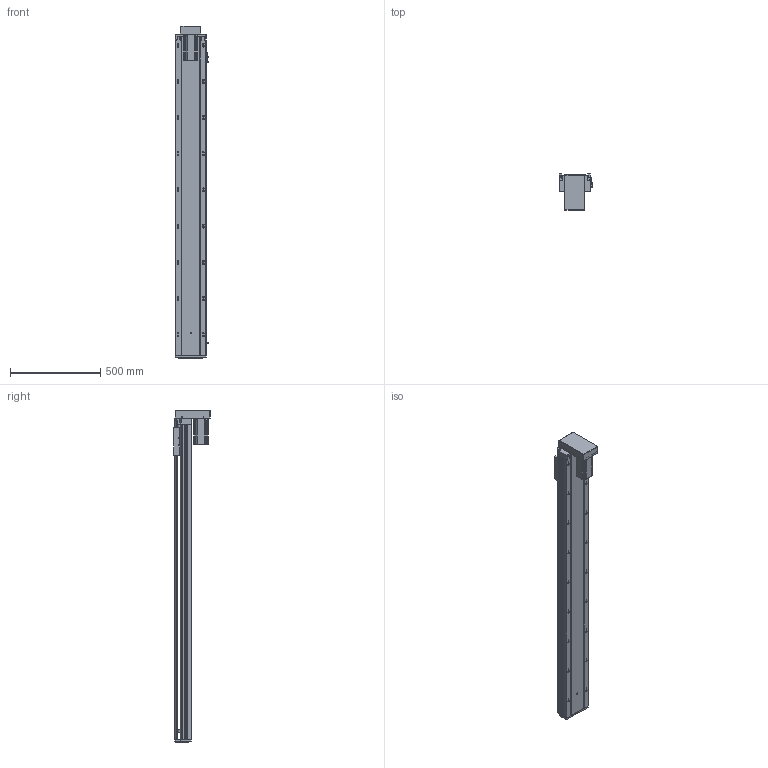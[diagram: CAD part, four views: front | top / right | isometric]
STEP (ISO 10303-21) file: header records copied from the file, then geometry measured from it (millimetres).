
FILE_DESCRIPTION (( 'STEP AP203' ), '1' );
FILE_NAME ('RY170-L2510-1400-BK.SLDASM_1500.step', '2021-03-12T09:25:40', ( '盈信电脑' ), ( '东莞市道滘镇水果街19号' ), 'SwSTEP 2.0', 'SolidWorks 2012', '' );
FILE_SCHEMA (( 'CONFIG_CONTROL_DESIGN' ));
Products named in the file (14): RY170-L2510-1400-BK.SLDASM_1500; 滅袉蝶18-15; RY170-狟殏萇儂假蚾啣; RY170-狟殏750W萇儂傷; RY170狟殏萇儂欶; 怢湛750W萇儂ㄗ80遺ㄘ; 滅袉蝶18-20; RY170外置感应片(200共用）; RY170转折电机端支撑座(7004); 覜茼ん672; RY170-1400倰第菁釱-BK_1500; 改造-RY170铝滑块25丝杆螺母; RY170-1400倰第裔啣-BK_1500; RY170綴裔啣
Assembly tree (15 placements, depth 3):
  RY170-L2510-1400-BK.SLDASM_1500
    RY170-1400倰第菁釱-BK_1500
    改造-RY170铝滑块25丝杆螺母
    RY170-1400倰第裔啣-BK_1500
    RY170綴裔啣
    覜茼ん672  x3
    RY170外置感应片(200共用）
    滅袉蝶18-20
    RY170转折电机端支撑座(7004)
    RY170-狟殏750W萇儂傷
      RY170-狟殏萇儂假蚾啣
      RY170狟殏萇儂欶
      怢湛750W萇儂ㄗ80遺ㄘ
    滅袉蝶18-15
Bounding box: 183.7 x 200.8 x 1834.5 mm (x, y, z)
Volume: 9408513.6 mm3; surface area: 3018354.6 mm2
Topology: 14 solids, 14 shells, 2294 faces, 6597 edges, 4208 vertices
Faces by surface type: plane 1086, cylinder 967, cone 222, bspline 19
Entity records: 74546 total; most frequent: CARTESIAN_POINT 18151, ORIENTED_EDGE 11842, DIRECTION 10953, EDGE_CURVE 5921, VERTEX_POINT 3888, AXIS2_PLACEMENT_3D 3680, LINE 3593, VECTOR 3593
